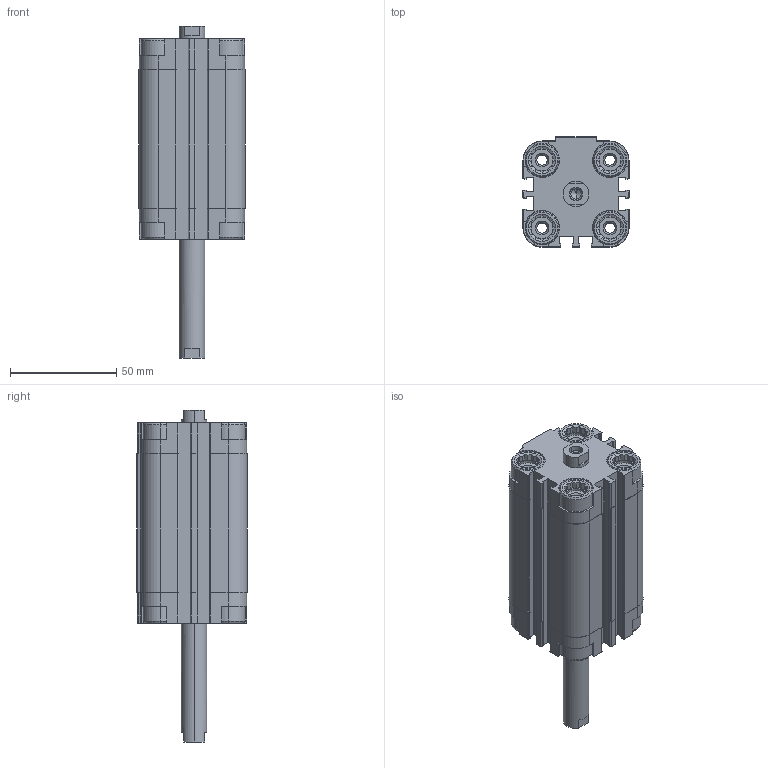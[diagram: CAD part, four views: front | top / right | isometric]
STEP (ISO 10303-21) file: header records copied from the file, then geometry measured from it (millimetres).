
FILE_DESCRIPTION (( 'STEP AP203' ), '1' );
FILE_NAME ('CDVU32-50F-P.STEP', '2020-07-24T18:12:44', ( '' ), ( '' ), 'SwSTEP 2.0', 'SolidWorks 2019', '' );
FILE_SCHEMA (( 'CONFIG_CONTROL_DESIGN' ));
Length unit declared in the file: millimetre
Products named in the file (1): CDVU32-50F-P
Bounding box: 50 x 52 x 156.5 mm (x, y, z)
Volume: 164752.8 mm3; surface area: 58844.8 mm2
Topology: 2 solids, 2 shells, 722 faces, 1928 edges, 1244 vertices
Faces by surface type: plane 422, cylinder 236, cone 64
Entity records: 22623 total; most frequent: CARTESIAN_POINT 4463, ORIENTED_EDGE 3840, DIRECTION 3710, EDGE_CURVE 1920, AXIS2_PLACEMENT_3D 1259, VERTEX_POINT 1244, LINE 1192, VECTOR 1192
